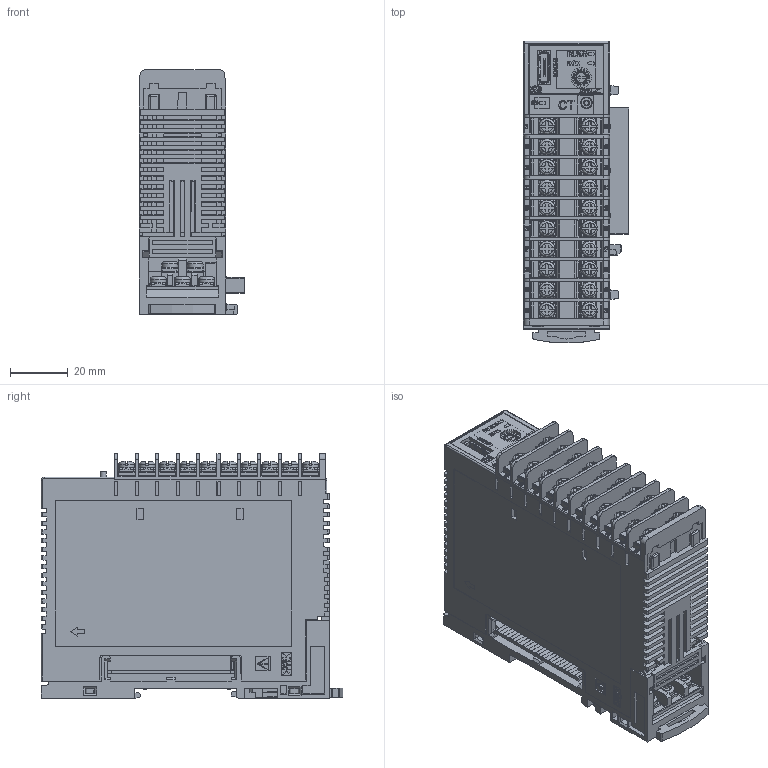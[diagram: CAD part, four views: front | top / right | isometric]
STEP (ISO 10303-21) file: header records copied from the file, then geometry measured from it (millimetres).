
FILE_DESCRIPTION (( 'STEP AP203' ), '1' );
FILE_NAME ('SRZ(Z-CT-AT)_WEB.STEP', '2016-10-13T07:33:50', ( '' ), ( '' ), 'SwSTEP 2.0', 'SolidWorks 2014', '' );
FILE_SCHEMA (( 'CONFIG_CONTROL_DESIGN' ));
Length unit declared in the file: millimetre
Products named in the file (3): SRZ(基本設計-CT端子)_WEB_1; KSRZ-54(1)_WEB_デフォルト; SRZ(Z-CT-AT)_WEB
Assembly tree (2 placements, depth 2):
  SRZ(Z-CT-AT)_WEB
    SRZ(基本設計-CT端子)_WEB_1
    KSRZ-54(1)_WEB_デフォルト
Bounding box: 36.65 x 104.76 x 85 mm (x, y, z)
Volume: 180892.1 mm3; surface area: 65905 mm2
Topology: 12 solids, 33 shells, 6684 faces, 17990 edges, 11654 vertices
Faces by surface type: plane 4112, bspline 1290, cylinder 1230, cone 48, torus 4
Entity records: 246600 total; most frequent: CARTESIAN_POINT 86470, ORIENTED_EDGE 35780, DIRECTION 28505, EDGE_CURVE 17890, LINE 12495, VECTOR 12495, VERTEX_POINT 11654, AXIS2_PLACEMENT_3D 8005
